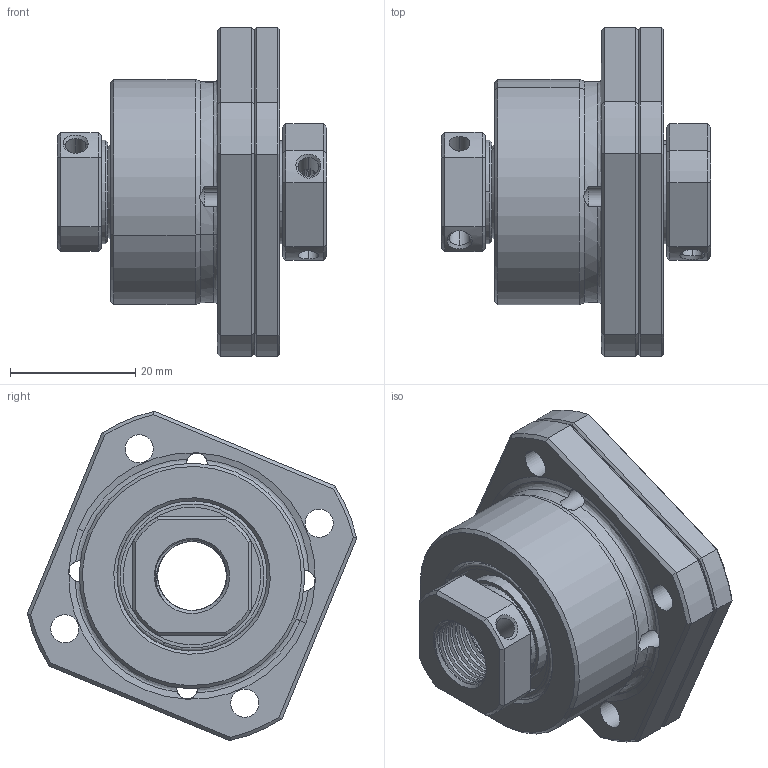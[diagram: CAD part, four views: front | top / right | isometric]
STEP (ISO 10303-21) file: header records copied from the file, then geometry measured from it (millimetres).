
FILE_DESCRIPTION (( 'STEP AP214' ), '1' );
FILE_NAME ('FK12B.STEP', '2019-03-19T09:08:11', ( 'XiTongPan' ), ( 'XiTongPan.Com' ), 'SwSTEP 2.0', 'SolidWorks 2011', '' );
FILE_SCHEMA (( 'AUTOMOTIVE_DESIGN' ));
Length unit declared in the file: millimetre
Products named in the file (3): FK12; FK12  坶踡蹟譫; FK12B
Assembly tree (2 placements, depth 2):
  FK12B
    FK12  坶踡蹟譫
    FK12
Bounding box: 43 x 52.62 x 52.62 mm (x, y, z)
Volume: 29309.8 mm3; surface area: 24794.3 mm2
Topology: 36 solids, 36 shells, 533 faces, 1347 edges, 791 vertices
Faces by surface type: bspline 173, cylinder 161, cone 116, plane 81, torus 2
Entity records: 20944 total; most frequent: CARTESIAN_POINT 8915, ORIENTED_EDGE 2502, DIRECTION 1985, EDGE_CURVE 1251, AXIS2_PLACEMENT_3D 837, VERTEX_POINT 791, EDGE_LOOP 598, ADVANCED_FACE 533
